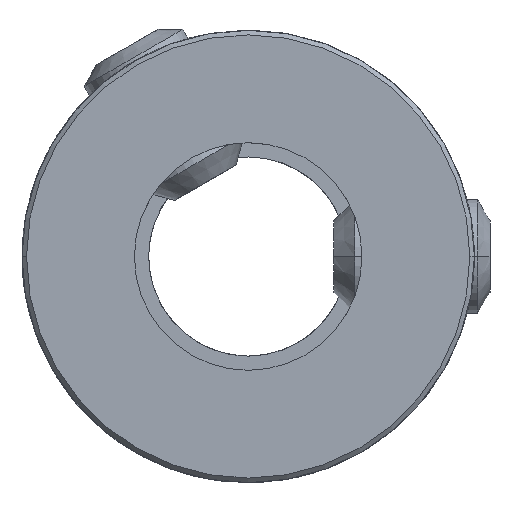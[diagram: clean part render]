
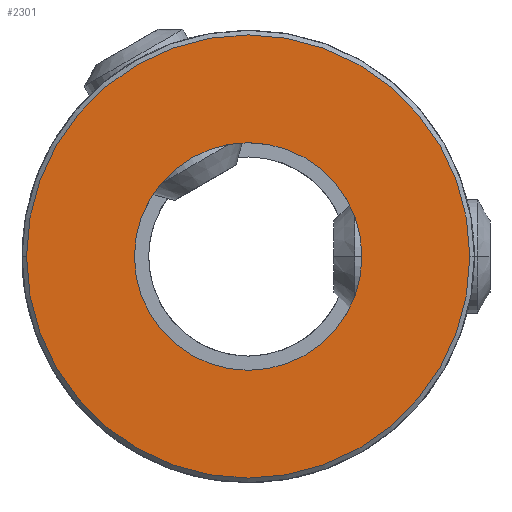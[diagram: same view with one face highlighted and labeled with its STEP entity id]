
A CAD part, front view. The second image highlights one B-rep face of the part: STEP entity #2301.
In plain terms, the highlighted planar face has unit normal (0, -1, 0).
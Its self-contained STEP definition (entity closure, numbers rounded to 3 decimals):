
#1=CARTESIAN_POINT('',(0.,-12.7,
0.));
#2=DIRECTION('',(0.,-1.,0.));
#3=DIRECTION('',(-1.,0.,0.));
#4=AXIS2_PLACEMENT_3D('',#1,#2,#3);
#6=CARTESIAN_POINT('',(0.,-12.7,0.));
#7=DIRECTION('',(0.,-1.,0.));
#8=DIRECTION('',(1.,0.,0.));
#9=AXIS2_PLACEMENT_3D('',#6,#7,#8);
#11=CARTESIAN_POINT('',(0.,-12.7,0.));
#12=DIRECTION('',(0.,1.,0.));
#13=DIRECTION('',(1.,0.,0.));
#14=AXIS2_PLACEMENT_3D('',#11,#12,#13);
#16=CARTESIAN_POINT('',(0.,-12.7,0.));
#17=DIRECTION('',(0.,1.,0.));
#18=DIRECTION('',(-1.,0.,0.));
#19=AXIS2_PLACEMENT_3D('',#16,#17,#18);
#2089=CARTESIAN_POINT('',(4.,-12.7,0.));
#2090=CARTESIAN_POINT('',(-4.,-12.7,0.));
#2091=VERTEX_POINT('',#2089);
#2092=VERTEX_POINT('',#2090);
#2109=CARTESIAN_POINT('',(-7.79,-12.7,0.));
#2110=CARTESIAN_POINT('',(7.79,-12.7,0.));
#2111=VERTEX_POINT('',#2109);
#2112=VERTEX_POINT('',#2110);
#2284=CARTESIAN_POINT('',(0.,-12.7,0.));
#2285=DIRECTION('',(0.,1.,0.));
#2286=DIRECTION('',(1.,0.,0.));
#2287=AXIS2_PLACEMENT_3D('',#2284,#2285,#2286);
#2288=PLANE('',#2287);
#2290=ORIENTED_EDGE('',*,*,#2289,.F.);
#2292=ORIENTED_EDGE('',*,*,#2291,.F.);
#2293=EDGE_LOOP('',(#2290,#2292));
#2294=FACE_OUTER_BOUND('',#2293,.F.);
#2296=ORIENTED_EDGE('',*,*,#2295,.F.);
#2298=ORIENTED_EDGE('',*,*,#2297,.F.);
#2299=EDGE_LOOP('',(#2296,#2298));
#2300=FACE_BOUND('',#2299,.F.);
#2301=ADVANCED_FACE('',(#2294,#2300),#2288,.F.);
#5=CIRCLE('',#4,7.79);
#10=CIRCLE('',#9,7.79);
#15=CIRCLE('',#14,4.);
#20=CIRCLE('',#19,4.);
#2289=EDGE_CURVE('',#2111,#2112,#5,.T.);
#2291=EDGE_CURVE('',#2112,#2111,#10,.T.);
#2295=EDGE_CURVE('',#2091,#2092,#15,.T.);
#2297=EDGE_CURVE('',#2092,#2091,#20,.T.);
